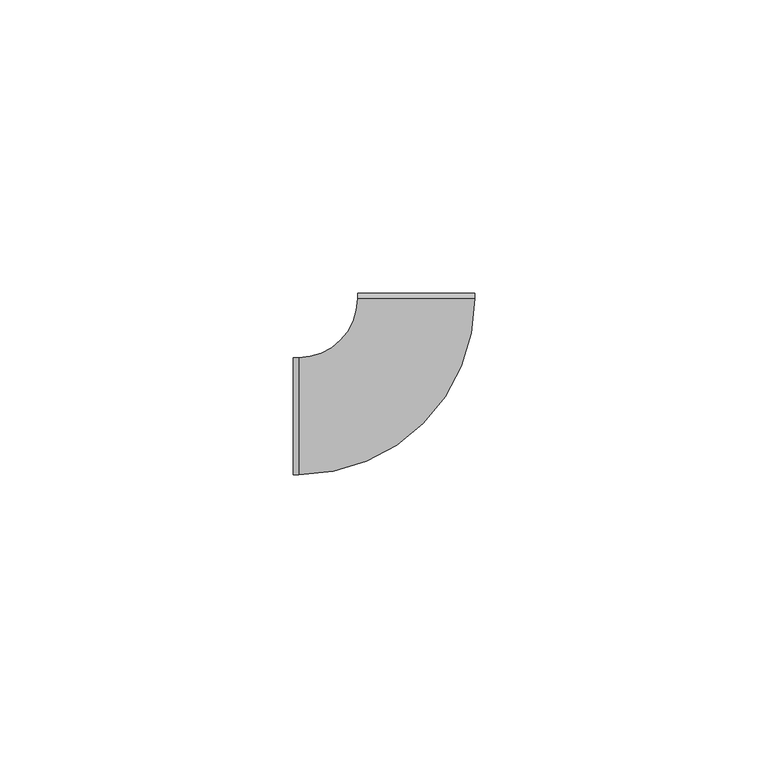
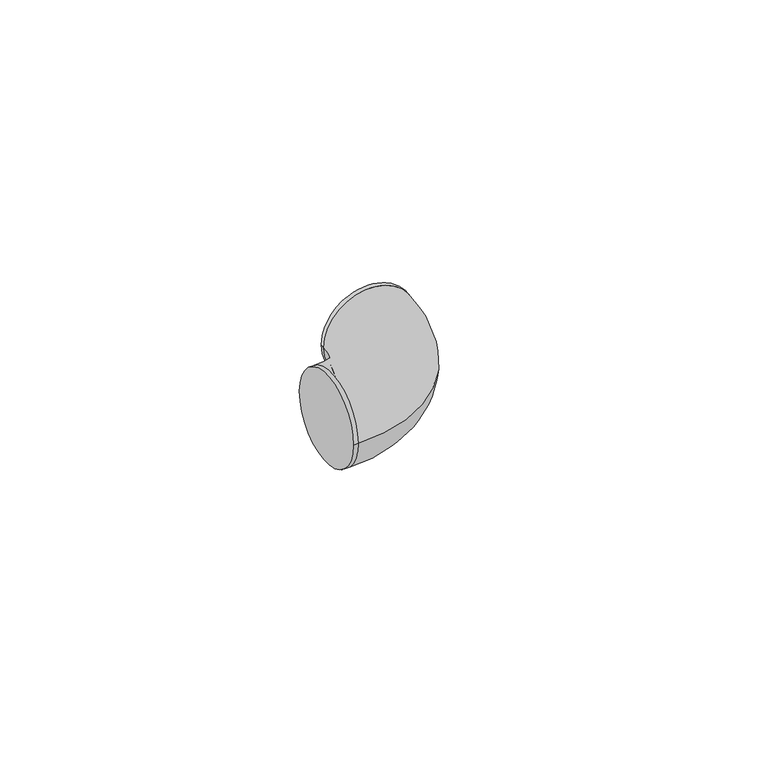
"""IFC4 building model written with IfcOpenShell, lengths in millimetres: cable carrier fitting geometry, ADSK_Поворот_Минимальный размер : Неспецифицируемый."""

from ifc_helpers import new_model, si_unit, point, frame, origin, place, context, project, spatial, circle_curve, ellipse_curve, trimmed, source, transform, mapped, element, save
from ifc_brep_helpers import plane_surface, cylinder_surface, revolved_surface, advanced_brep


def cable_carrier_fitting_60a48a8b(model_context):
    return source(origin(), model_context, "Body", "AdvancedBrep", [
        advanced_brep(
        [(-20.9999755, -10.0, 0.0), (-20.9999755, 10.0, 0.0), (-19.9999755, -10.0, 0.0), (-19.9999755, 10.0, 0.0), (-9.9999755, 19.9999877, 0.0), (10.0000245, 19.9999632, 0.0), (10.0000257, 20.9999632, 0.0), (-9.9999743, 20.9999877, 0.0)],
        [
            (0, 1, circle_curve(frame((-20.9999755, 0.0, 0.0), z_axis=(-1.0, -4.92260399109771e-12, 0.0), x_axis=(-4.92260399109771e-12, 1.0, 0.0)), 10.0)),
            (1, 0, circle_curve(frame((-20.9999755, 0.0, 0.0), z_axis=(-1.0, -4.92260399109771e-12, 0.0), x_axis=(-4.92260399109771e-12, 1.0, 0.0)), 10.0)),
            (0, 2),
            (2, 3, circle_curve(frame((-19.9999755, 0.0, 0.0), z_axis=(-1.0, -4.92260399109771e-12, 0.0), x_axis=(-4.92260399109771e-12, 1.0, 0.0)), 10.0)),
            (3, 1),
            (3, 2, circle_curve(frame((-19.9999755, 0.0, 0.0), z_axis=(-1.0, -4.92260399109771e-12, 0.0), x_axis=(-4.92260399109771e-12, 1.0, 0.0)), 10.0)),
            (4, 3, circle_curve(frame((-19.9999755, 20.0, 0.0), z_axis=(0.0, 0.0, -1.0), x_axis=(0.0, -1.0, 0.0)), 10.0)),
            (2, 5, circle_curve(frame((-19.9999755, 20.0, 0.0), z_axis=(0.0, 0.0, 1.0), x_axis=(0.0, -1.0, 0.0)), 30.0)),
            (5, 4, circle_curve(frame((2.45e-05, 19.9999755, 0.0), z_axis=(-1.225828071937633e-06, -0.9999999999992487, 0.0), x_axis=(-0.9999999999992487, 1.225828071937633e-06, 0.0)), 10.0)),
            (4, 5, circle_curve(frame((2.45e-05, 19.9999755, 0.0), z_axis=(-1.2258280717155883e-06, -0.9999999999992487, 0.0), x_axis=(-0.9999999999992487, 1.2258280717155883e-06, 0.0)), 10.0)),
            (6, 7, circle_curve(frame((2.57e-05, 20.9999755, 0.0), z_axis=(1.2258280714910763e-06, 0.9999999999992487, 0.0), x_axis=(-0.9999999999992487, 1.2258280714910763e-06, 0.0)), 10.0)),
            (7, 6, circle_curve(frame((2.57e-05, 20.9999755, 0.0), z_axis=(1.2258280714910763e-06, 0.9999999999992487, 0.0), x_axis=(-0.9999999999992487, 1.2258280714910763e-06, 0.0)), 10.0)),
            (5, 6),
            (7, 4),
        ],
        [
            plane_surface(frame((-20.9999755, 0.0, 0.0), z_axis=(-1.0, -4.92260399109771e-12, 0.0), x_axis=(0.0, 0.0, 1.0))),
            cylinder_surface(frame((-20.9999755, 0.0, 0.0), z_axis=(-1.0, -4.92260399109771e-12, 0.0), x_axis=(-4.92260399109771e-12, 1.0, 0.0)), 10.0),
            revolved_surface(trimmed(ellipse_curve(frame((-19.9999755, 0.0, 0.0), z_axis=(-1.0, 0.0, 0.0), x_axis=(0.0, 1.0, 0.0)), 10.0, 10.0), [point((-19.9999755, -10.0, 0.0))], [point((-19.9999755, 10.0, 0.0))], True, "CARTESIAN"), (-19.9999755, 20.0, 0.0), (0.0, 0.0, 1.0)),
            revolved_surface(trimmed(ellipse_curve(frame((-19.9999755, 0.0, 0.0), z_axis=(-1.0, 0.0, 0.0), x_axis=(0.0, 1.0, 0.0)), 10.0, 10.0), [point((-19.9999755, 10.0, 0.0))], [point((-19.9999755, -10.0, 0.0))], True, "CARTESIAN"), (-19.9999755, 20.0, 0.0), (0.0, 0.0, 1.0)),
            plane_surface(frame((2.57e-05, 20.9999755, 0.0), z_axis=(1.225828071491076e-06, 0.9999999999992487, 0.0), x_axis=(0.0, 0.0, 1.0))),
            cylinder_surface(frame((2.45e-05, 19.9999755, 0.0), z_axis=(-1.2258280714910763e-06, -0.9999999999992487, 0.0), x_axis=(-0.9999999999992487, 1.2258280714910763e-06, 0.0)), 10.0),
        ],
        [
            (0, [[1, 2]]),
            (1, [[-1, 3, 4, 5]]),
            (1, [[-2, -5, 6, -3]]),
            (2, [[7, -4, 8, 9]]),
            (3, [[-8, -6, -7, 10]]),
            (4, [[11, 12]]),
            (5, [[-9, 13, -12, 14]]),
            (5, [[-10, -14, -11, -13]]),
        ],
    ),
    ])


if __name__ == "__main__":
    model = new_model("IFC4")
    model_context = context("Model", 3, world=origin())
    ifc_project = project(units=[si_unit("LENGTHUNIT", "METRE", prefix="MILLI")], contexts=[model_context])
    site = spatial("IfcSite", under=ifc_project)
    building = spatial("IfcBuilding", under=site)
    placement = place(None, origin())
    cable_carrier_fitting_shape = cable_carrier_fitting_60a48a8b(model_context)
    element("IfcCableCarrierFitting", 1, ObjectType="ADSK_Поворот_Минимальный размер : Неспецифицируемый", at=placement, inside=building, context=model_context, shape_type="MappedRepresentation", body=[
        mapped(cable_carrier_fitting_shape, transform((0.0, 0.0, 0.0), x_axis=(1.0, 0.0, 0.0), y_axis=(0.0, 1.0, 0.0), z_axis=(0.0, 0.0, 1.0))),
    ])
    save(model, "model.ifc")
